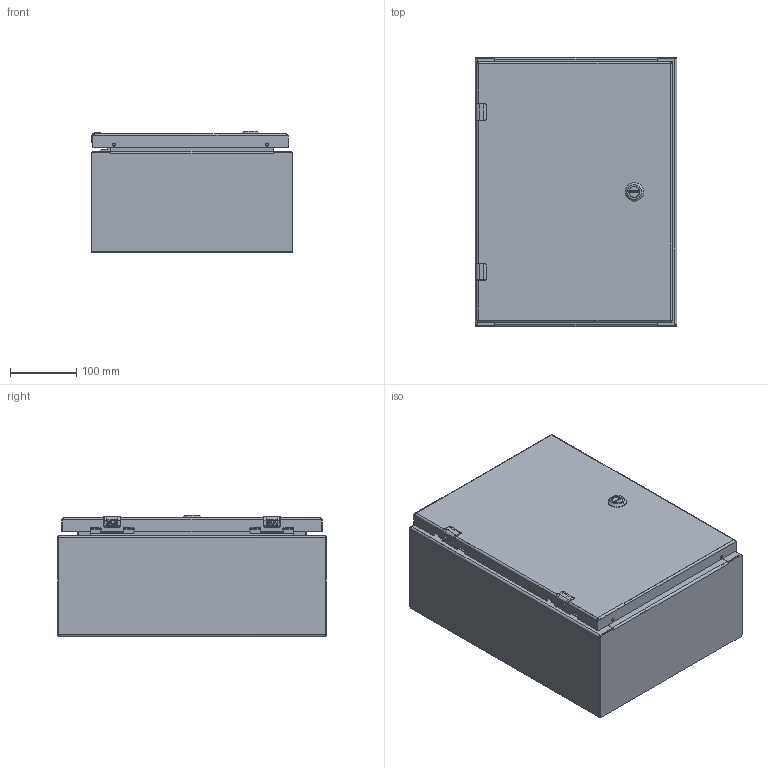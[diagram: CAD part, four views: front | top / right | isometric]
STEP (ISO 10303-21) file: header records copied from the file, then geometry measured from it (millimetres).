
FILE_DESCRIPTION((''),'2;1');
FILE_NAME('MODEL-305_ASM','2025-02-14T07:19:34',('joshi'),('SAGINAW CONTROL & ENGINEERING'),'CREO PARAMETRIC BY PTC INC, 2021284','CREO PARAMETRIC BY PTC INC, 2021284','');
FILE_SCHEMA(('AUTOMOTIVE_DESIGN { 1 0 10303 214 1 1 1 1 }'));
Length unit declared in the file: inch
Products named in the file (27): MODEL-305-BDY; MODEL-305-TP; MODEL-305-BTM; MODEL-305-DR; 100837; 100794_SHAFT; 100794_INSERT; 100794_CAM; 100794_NUT; 100794_SCREW; 100794_ASM; MODEL-305-DOOR-GASKET; 126391; 126391_ASM; 126393; 102483; 101226; 101376; 102140; 132757; MODEL-305-DOOR-ASSY_ASM; 101651; 122191; SUBPANEL; 100904; SUBPANEL-SUBASSEMBLY_ASM; MODEL-305_ASM
Assembly tree (44 placements, depth 4):
  MODEL-305_ASM
    MODEL-305-BDY
    MODEL-305-TP
    MODEL-305-BTM
    MODEL-305-DOOR-ASSY_ASM
      MODEL-305-DR
      100837
      100794_ASM
        100794_SHAFT
        100794_INSERT
        100794_CAM
        100794_NUT
        100794_SCREW
      MODEL-305-DOOR-GASKET
      126391_ASM  x2
        126391
      126393  x2
      102483  x6
      101226  x2
      101376  x2
      102140  x2
      132757  x2
    100837
    101651  x4
    122191
    SUBPANEL-SUBASSEMBLY_ASM
      SUBPANEL
      100904  x4
Bounding box: 304.8 x 406.4 x 183.53 mm (x, y, z)
Volume: 1446149.9 mm3; surface area: 1338236 mm2
Topology: 41 solids, 41 shells, 1969 faces, 4909 edges, 3076 vertices
Faces by surface type: plane 905, cylinder 631, torus 177, bspline 116, cone 96, sphere 44
Entity records: 62063 total; most frequent: CARTESIAN_POINT 13386, DIRECTION 7001, ORIENTED_EDGE 6606, PRESENTATION_STYLE_ASSIGNMENT 3499, EDGE_CURVE 3303, STYLED_ITEM 3224, CURVE_STYLE 3141, AXIS2_PLACEMENT_3D 2543
